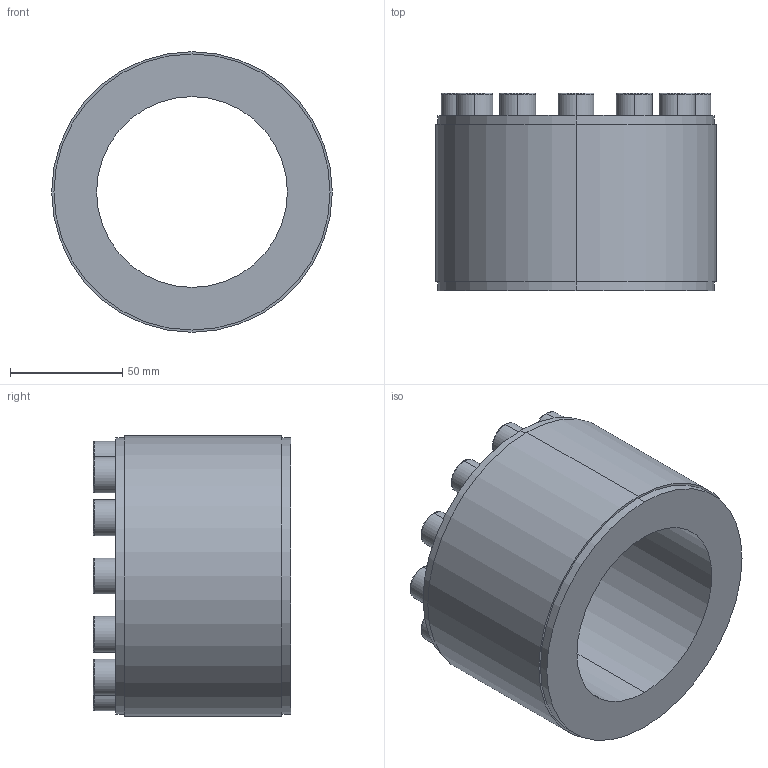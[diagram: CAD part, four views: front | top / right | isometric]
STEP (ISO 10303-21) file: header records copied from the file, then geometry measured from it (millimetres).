
FILE_DESCRIPTION (( 'STEP AP203' ), '1' );
FILE_NAME ('PL-D1 85-125.STEP', '2021-10-23T00:17:00', ( '' ), ( '' ), 'SwSTEP 2.0', 'SolidWorks 2018', '' );
FILE_SCHEMA (( 'CONFIG_CONTROL_DESIGN' ));
Length unit declared in the file: millimetre
Products named in the file (1): PL-D1 85-125
Bounding box: 125 x 88 x 125 mm (x, y, z)
Volume: 532246.4 mm3; surface area: 72167.6 mm2
Topology: 1 solids, 1 shells, 156 faces, 360 edges, 232 vertices
Faces by surface type: plane 100, cylinder 32, torus 24
Entity records: 4485 total; most frequent: DIRECTION 786, CARTESIAN_POINT 749, ORIENTED_EDGE 720, EDGE_CURVE 360, AXIS2_PLACEMENT_3D 269, LINE 248, VECTOR 248, VERTEX_POINT 232
